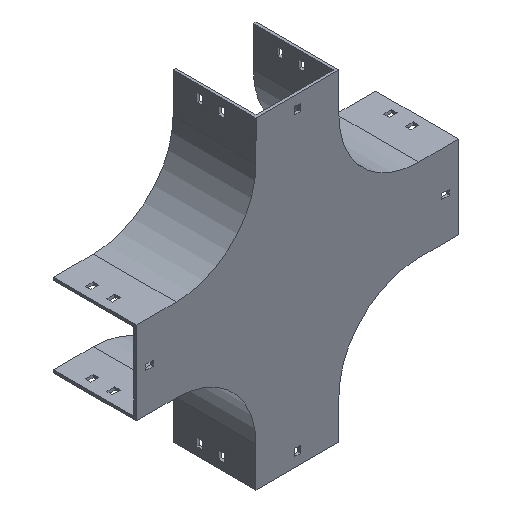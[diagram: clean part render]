
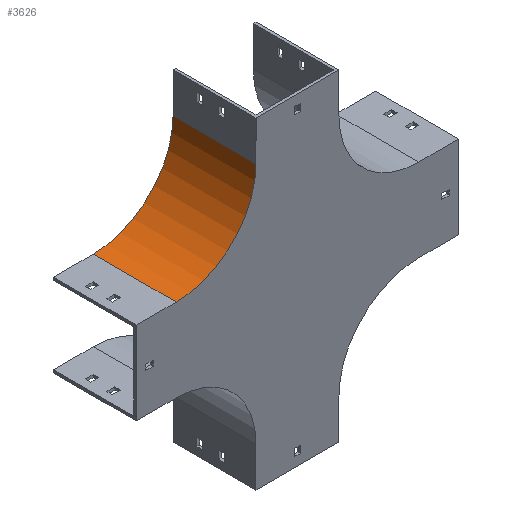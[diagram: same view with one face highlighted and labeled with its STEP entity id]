
A CAD part, isometric view. The second image highlights one B-rep face of the part: STEP entity #3626.
In plain terms, the highlighted cylindrical face has radius 100 mm (diameter 200 mm), a partial arc.
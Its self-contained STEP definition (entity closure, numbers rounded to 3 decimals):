
#5 = FACE_OUTER_BOUND ( 'NONE', #2475, .T. ) ;
#29 = DIRECTION ( 'NONE',  ( 0., 0., -1. ) ) ;
#62 = DIRECTION ( 'NONE',  ( 0., 0., 1. ) ) ;
#187 = EDGE_CURVE ( 'NONE', #1764, #3439, #452, .T. ) ;
#287 = CARTESIAN_POINT ( 'NONE',  ( -304., 104., 0. ) ) ;
#452 = LINE ( 'NONE', #3031, #2942 ) ;
#665 = VERTEX_POINT ( 'NONE', #3506 ) ;
#918 = CARTESIAN_POINT ( 'NONE',  ( -304., 104., 0. ) ) ;
#970 = DIRECTION ( 'NONE',  ( 0., -1., 0. ) ) ;
#1017 = DIRECTION ( 'NONE',  ( 0., -1., 0. ) ) ;
#1222 = CARTESIAN_POINT ( 'NONE',  ( -204., 0., 0. ) ) ;
#1250 = CARTESIAN_POINT ( 'NONE',  ( -204., 104., 0. ) ) ;
#1279 = LINE ( 'NONE', #1250, #1569 ) ;
#1452 = CIRCLE ( 'NONE', #1925, 100. ) ;
#1546 = DIRECTION ( 'NONE',  ( 0., -1., 0. ) ) ;
#1565 = AXIS2_PLACEMENT_3D ( 'NONE', #2990, #970, #62 ) ;
#1569 = VECTOR ( 'NONE', #1546, 1000. ) ;
#1689 = AXIS2_PLACEMENT_3D ( 'NONE', #918, #2667, #29 ) ;
#1764 = VERTEX_POINT ( 'NONE', #2964 ) ;
#1791 = CYLINDRICAL_SURFACE ( 'NONE', #1689, 100. ) ;
#1925 = AXIS2_PLACEMENT_3D ( 'NONE', #287, #2338, #2619 ) ;
#2338 = DIRECTION ( 'NONE',  ( 0., -1., 0. ) ) ;
#2475 = EDGE_LOOP ( 'NONE', ( #3082, #3026, #2739, #3722 ) ) ;
#2591 = EDGE_CURVE ( 'NONE', #3439, #3158, #2729, .T. ) ;
#2619 = DIRECTION ( 'NONE',  ( 0., 0., 1. ) ) ;
#2667 = DIRECTION ( 'NONE',  ( 0., -1., 0. ) ) ;
#2729 = CIRCLE ( 'NONE', #1565, 100. ) ;
#2738 = EDGE_CURVE ( 'NONE', #665, #3158, #1279, .T. ) ;
#2739 = ORIENTED_EDGE ( 'NONE', *, *, #3591, .F. ) ;
#2942 = VECTOR ( 'NONE', #1017, 1000. ) ;
#2964 = CARTESIAN_POINT ( 'NONE',  ( -304., 104., -100. ) ) ;
#2990 = CARTESIAN_POINT ( 'NONE',  ( -304., 0., 0. ) ) ;
#3026 = ORIENTED_EDGE ( 'NONE', *, *, #2738, .F. ) ;
#3031 = CARTESIAN_POINT ( 'NONE',  ( -304., 104., -100. ) ) ;
#3082 = ORIENTED_EDGE ( 'NONE', *, *, #2591, .T. ) ;
#3158 = VERTEX_POINT ( 'NONE', #1222 ) ;
#3438 = CARTESIAN_POINT ( 'NONE',  ( -304., 0., -100. ) ) ;
#3439 = VERTEX_POINT ( 'NONE', #3438 ) ;
#3506 = CARTESIAN_POINT ( 'NONE',  ( -204., 104., 0. ) ) ;
#3591 = EDGE_CURVE ( 'NONE', #1764, #665, #1452, .T. ) ;
#3626 = ADVANCED_FACE ( 'NONE', ( #5 ), #1791, .F. ) ;
#3722 = ORIENTED_EDGE ( 'NONE', *, *, #187, .T. ) ;
